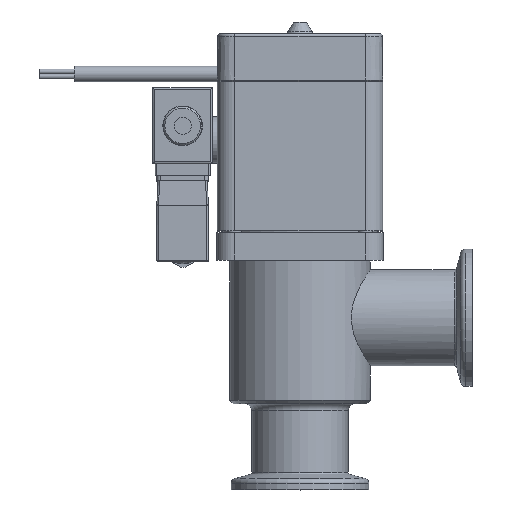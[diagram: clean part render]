
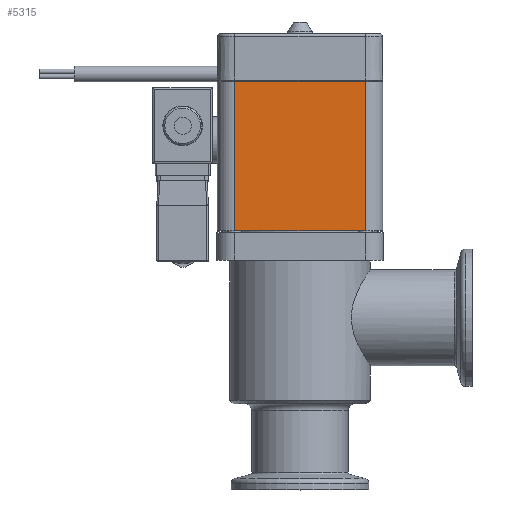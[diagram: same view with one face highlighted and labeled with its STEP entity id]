
A CAD part, top view. The second image highlights one B-rep face of the part: STEP entity #5315.
In plain terms, the highlighted planar face has unit normal (0, 0, 1) as drawn and (0, 0, -1) by its records, which use the part's own axes.
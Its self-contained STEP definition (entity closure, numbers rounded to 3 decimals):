
#2838=FACE_OUTER_BOUND('',#6784,.T.);
#3230=PLANE('',#13183);
#3753=LINE('',#18312,#4561);
#3758=LINE('',#18348,#4566);
#3759=LINE('',#18360,#4567);
#3760=LINE('',#18362,#4568);
#4561=VECTOR('',#14975,1.);
#4566=VECTOR('',#15008,1.);
#4567=VECTOR('',#15021,1.);
#4568=VECTOR('',#15024,1.);
#5315=ADVANCED_FACE('',(#2838),#3230,.F.);
#6784=EDGE_LOOP('',(#8343,#8344,#8345,#8346));
#8343=ORIENTED_EDGE('',*,*,#11483,.T.);
#8344=ORIENTED_EDGE('',*,*,#11490,.F.);
#8345=ORIENTED_EDGE('',*,*,#11465,.F.);
#8346=ORIENTED_EDGE('',*,*,#11489,.T.);
#10360=VERTEX_POINT('',#18311);
#10361=VERTEX_POINT('',#18313);
#10377=VERTEX_POINT('',#18347);
#10378=VERTEX_POINT('',#18349);
#11465=EDGE_CURVE('',#10360,#10361,#3753,.T.);
#11483=EDGE_CURVE('',#10378,#10377,#3758,.T.);
#11489=EDGE_CURVE('',#10360,#10378,#3759,.T.);
#11490=EDGE_CURVE('',#10361,#10377,#3760,.T.);
#13183=AXIS2_PLACEMENT_3D('',#18363,#15025,#15026);
#14975=DIRECTION('',(-1.,0.,0.));
#15008=DIRECTION('',(-1.,0.,0.));
#15021=DIRECTION('',(0.,-1.,0.));
#15024=DIRECTION('',(0.,-1.,0.));
#15025=DIRECTION('',(0.,0.,1.));
#15026=DIRECTION('',(1.,0.,0.));
#18311=CARTESIAN_POINT('',(19.,43.3,-24.));
#18312=CARTESIAN_POINT('',(19.,43.3,-24.));
#18313=CARTESIAN_POINT('',(-19.,43.3,-24.));
#18347=CARTESIAN_POINT('',(-19.,0.,-24.));
#18348=CARTESIAN_POINT('',(19.,0.,-24.));
#18349=CARTESIAN_POINT('',(19.,0.,-24.));
#18360=CARTESIAN_POINT('',(19.,43.3,-24.));
#18362=CARTESIAN_POINT('',(-19.,43.3,-24.));
#18363=CARTESIAN_POINT('',(19.,43.3,-24.));
